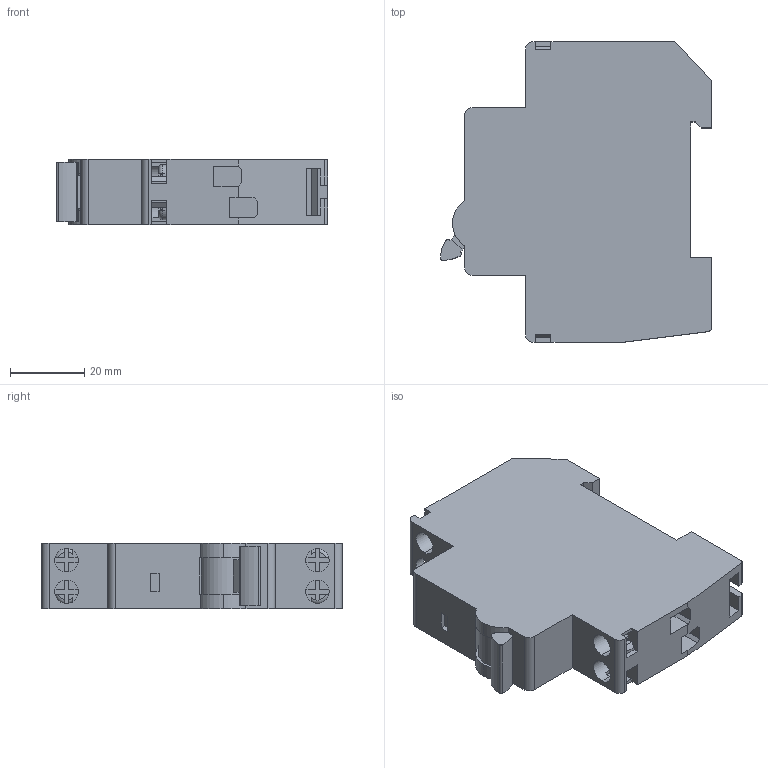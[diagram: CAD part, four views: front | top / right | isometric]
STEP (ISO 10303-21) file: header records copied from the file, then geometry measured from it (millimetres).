
FILE_DESCRIPTION (( 'STEP AP214' ), '1' );
FILE_NAME ('Installatieautomaat 1P+N.STEP', '2025-07-29T13:13:37', ( '' ), ( '' ), 'SwSTEP 2.0', 'SolidWorks 2025', '' );
FILE_SCHEMA (( 'AUTOMOTIVE_DESIGN' ));
Length unit declared in the file: millimetre
Products named in the file (2): CAD #1; Installatieautomaat 1P+N
Assembly tree (1 placements, depth 2):
  Installatieautomaat 1P+N
    CAD #1
Bounding box: 72.86 x 80.8 x 17.5 mm (x, y, z)
Volume: 74994.1 mm3; surface area: 16925.6 mm2
Topology: 1 solids, 1 shells, 250 faces, 712 edges, 463 vertices
Faces by surface type: plane 212, cylinder 32, torus 6
Entity records: 8200 total; most frequent: CARTESIAN_POINT 1572, ORIENTED_EDGE 1424, DIRECTION 1313, EDGE_CURVE 712, LINE 573, VECTOR 573, VERTEX_POINT 463, AXIS2_PLACEMENT_3D 370
